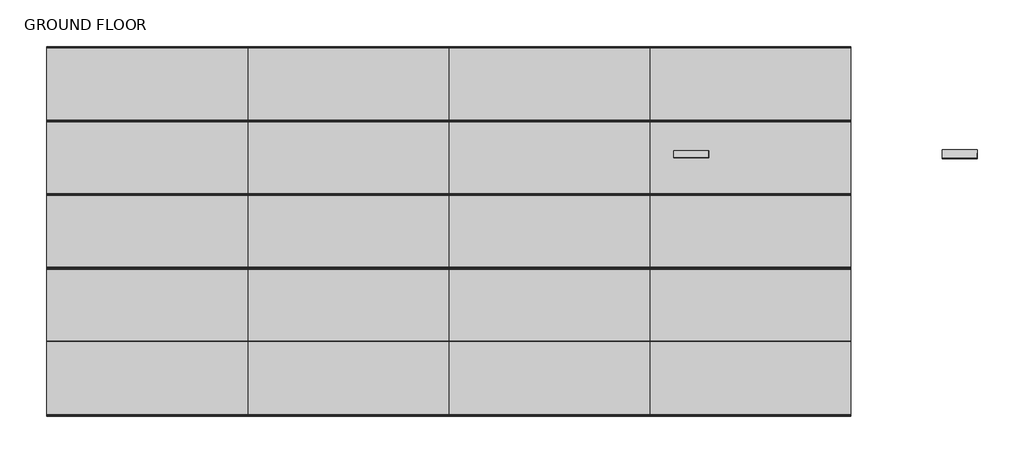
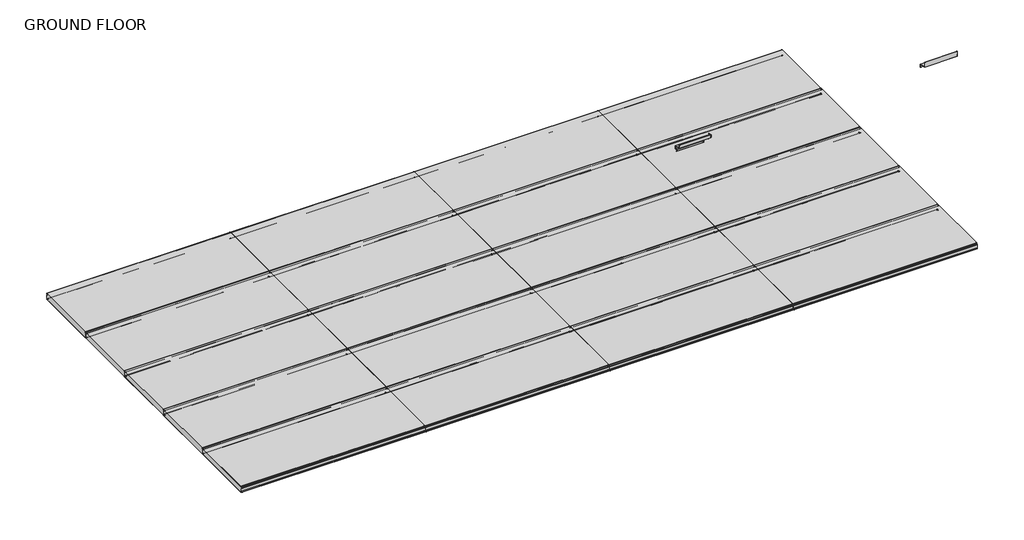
# One storey: 23 proxies.
"""IFC4 building model written with IfcOpenShell, lengths in millimetres."""

from ifc_helpers import new_model, si_unit, origin, place, context, project, spatial, transform, mapped, element, save
from components import cr1100_3d_100mm_cr1100_3d_100mm_3775a894, compressible_foam_seal1_compressible_foam_seal_3d3ce578, roof_b_apron_flashing_13_roof_b_apron_flashing_3fdaa6fa, roof_b_apron_flashing_14_roof_b_apron_flashing_8da3c9e0

model = new_model("IFC4")

# Units and contexts
model_context = context("Model", 3, world=origin())
ifc_project = project(units=[si_unit("LENGTHUNIT", "METRE", prefix="MILLI")], contexts=[model_context])

# Site, building, storey
site = spatial("IfcSite", under=ifc_project)
building = spatial("IfcBuilding", under=site)
storey = spatial("IfcBuildingStorey", under=building, Name="GROUND FLOOR", Elevation=0.0)

# Proxies
placement = place(None, origin())
cr1100_3d_100mm_cr1100_3d_100mm_shape = cr1100_3d_100mm_cr1100_3d_100mm_3775a894(model_context)
element("IfcBuildingElementProxy", 1, Name="CR1100-3D-100mm : CR1100-3D-100mm", ObjectType="CR1100-3D-100mm : CR1100-3D-100mm", at=placement, inside=storey, context=model_context, shape_type="MappedRepresentation", body=[
    mapped(cr1100_3d_100mm_cr1100_3d_100mm_shape, transform((4606.190419, 1117.4445991, 0.0), x_axis=(0.0, -1.0, 0.0), y_axis=(1.0, 0.0, 0.0), z_axis=(0.0, 0.0, 1.0))),
])
element("IfcBuildingElementProxy", 2, Name="CR1100-3D-100mm : CR1100-3D-100mm", ObjectType="CR1100-3D-100mm : CR1100-3D-100mm", at=placement, inside=storey, context=model_context, shape_type="MappedRepresentation", body=[
    mapped(cr1100_3d_100mm_cr1100_3d_100mm_shape, transform((4606.190419, 17.4418557, 0.0), x_axis=(0.0, -1.0, 0.0), y_axis=(1.0, 0.0, 0.0), z_axis=(0.0, 0.0, 1.0))),
])
element("IfcBuildingElementProxy", 3, Name="CR1100-3D-100mm : CR1100-3D-100mm", ObjectType="CR1100-3D-100mm : CR1100-3D-100mm", at=placement, inside=storey, context=model_context, shape_type="MappedRepresentation", body=[
    mapped(cr1100_3d_100mm_cr1100_3d_100mm_shape, transform((4606.190419, -1082.5608878, 0.0), x_axis=(0.0, -1.0, 0.0), y_axis=(1.0, 0.0, 0.0), z_axis=(0.0, 0.0, 1.0))),
])
element("IfcBuildingElementProxy", 4, Name="CR1100-3D-100mm : CR1100-3D-100mm", ObjectType="CR1100-3D-100mm : CR1100-3D-100mm", at=placement, inside=storey, context=model_context, shape_type="MappedRepresentation", body=[
    mapped(cr1100_3d_100mm_cr1100_3d_100mm_shape, transform((1606.190419, 1117.4445991, 0.0), x_axis=(0.0, -1.0, 0.0), y_axis=(1.0, 0.0, 0.0), z_axis=(0.0, 0.0, 1.0))),
])
element("IfcBuildingElementProxy", 5, Name="CR1100-3D-100mm : CR1100-3D-100mm", ObjectType="CR1100-3D-100mm : CR1100-3D-100mm", at=placement, inside=storey, context=model_context, shape_type="MappedRepresentation", body=[
    mapped(cr1100_3d_100mm_cr1100_3d_100mm_shape, transform((1606.190419, 17.4418557, 0.0), x_axis=(0.0, -1.0, 0.0), y_axis=(1.0, 0.0, 0.0), z_axis=(0.0, 0.0, 1.0))),
])
element("IfcBuildingElementProxy", 6, Name="CR1100-3D-100mm : CR1100-3D-100mm", ObjectType="CR1100-3D-100mm : CR1100-3D-100mm", at=placement, inside=storey, context=model_context, shape_type="MappedRepresentation", body=[
    mapped(cr1100_3d_100mm_cr1100_3d_100mm_shape, transform((1606.190419, -1082.5608878, 0.0), x_axis=(0.0, -1.0, 0.0), y_axis=(1.0, 0.0, 0.0), z_axis=(0.0, 0.0, 1.0))),
])
element("IfcBuildingElementProxy", 7, Name="CR1100-3D-100mm : CR1100-3D-100mm", ObjectType="CR1100-3D-100mm : CR1100-3D-100mm", at=placement, inside=storey, context=model_context, shape_type="MappedRepresentation", body=[
    mapped(cr1100_3d_100mm_cr1100_3d_100mm_shape, transform((7606.190419, 1117.4445991, 0.0), x_axis=(0.0, -1.0, 0.0), y_axis=(1.0, 0.0, 0.0), z_axis=(0.0, 0.0, 1.0))),
])
element("IfcBuildingElementProxy", 8, Name="CR1100-3D-100mm : CR1100-3D-100mm", ObjectType="CR1100-3D-100mm : CR1100-3D-100mm", at=placement, inside=storey, context=model_context, shape_type="MappedRepresentation", body=[
    mapped(cr1100_3d_100mm_cr1100_3d_100mm_shape, transform((7606.190419, 17.4418557, 0.0), x_axis=(0.0, -1.0, 0.0), y_axis=(1.0, 0.0, 0.0), z_axis=(0.0, 0.0, 1.0))),
])
element("IfcBuildingElementProxy", 9, Name="CR1100-3D-100mm : CR1100-3D-100mm", ObjectType="CR1100-3D-100mm : CR1100-3D-100mm", at=placement, inside=storey, context=model_context, shape_type="MappedRepresentation", body=[
    mapped(cr1100_3d_100mm_cr1100_3d_100mm_shape, transform((7606.190419, -1082.5608878, 0.0), x_axis=(0.0, -1.0, 0.0), y_axis=(1.0, 0.0, 0.0), z_axis=(0.0, 0.0, 1.0))),
])
element("IfcBuildingElementProxy", 10, Name="CR1100-3D-100mm : CR1100-3D-100mm", ObjectType="CR1100-3D-100mm : CR1100-3D-100mm", at=placement, inside=storey, context=model_context, shape_type="MappedRepresentation", body=[
    mapped(cr1100_3d_100mm_cr1100_3d_100mm_shape, transform((4606.190419, 2217.4473426, 0.0), x_axis=(0.0, -1.0, 0.0), y_axis=(1.0, 0.0, 0.0), z_axis=(0.0, 0.0, 1.0))),
])
element("IfcBuildingElementProxy", 11, Name="CR1100-3D-100mm : CR1100-3D-100mm", ObjectType="CR1100-3D-100mm : CR1100-3D-100mm", at=placement, inside=storey, context=model_context, shape_type="MappedRepresentation", body=[
    mapped(cr1100_3d_100mm_cr1100_3d_100mm_shape, transform((4606.190419, -2180.5636316, 0.0), x_axis=(0.0, -1.0, 0.0), y_axis=(1.0, 0.0, 0.0), z_axis=(0.0, 0.0, 1.0))),
])
element("IfcBuildingElementProxy", 12, Name="CR1100-3D-100mm : CR1100-3D-100mm", ObjectType="CR1100-3D-100mm : CR1100-3D-100mm", at=placement, inside=storey, context=model_context, shape_type="MappedRepresentation", body=[
    mapped(cr1100_3d_100mm_cr1100_3d_100mm_shape, transform((7606.190419, 2217.4473426, 0.0), x_axis=(0.0, -1.0, 0.0), y_axis=(1.0, 0.0, 0.0), z_axis=(0.0, 0.0, 1.0))),
])
element("IfcBuildingElementProxy", 13, Name="CR1100-3D-100mm : CR1100-3D-100mm", ObjectType="CR1100-3D-100mm : CR1100-3D-100mm", at=placement, inside=storey, context=model_context, shape_type="MappedRepresentation", body=[
    mapped(cr1100_3d_100mm_cr1100_3d_100mm_shape, transform((7606.190419, -2180.5636316, 0.0), x_axis=(0.0, -1.0, 0.0), y_axis=(1.0, 0.0, 0.0), z_axis=(0.0, 0.0, 1.0))),
])
element("IfcBuildingElementProxy", 14, Name="CR1100-3D-100mm : CR1100-3D-100mm", ObjectType="CR1100-3D-100mm : CR1100-3D-100mm", at=placement, inside=storey, context=model_context, shape_type="MappedRepresentation", body=[
    mapped(cr1100_3d_100mm_cr1100_3d_100mm_shape, transform((1606.190419, 2217.4473426, 0.0), x_axis=(0.0, -1.0, 0.0), y_axis=(1.0, 0.0, 0.0), z_axis=(0.0, 0.0, 1.0))),
])
element("IfcBuildingElementProxy", 15, Name="CR1100-3D-100mm : CR1100-3D-100mm", ObjectType="CR1100-3D-100mm : CR1100-3D-100mm", at=placement, inside=storey, context=model_context, shape_type="MappedRepresentation", body=[
    mapped(cr1100_3d_100mm_cr1100_3d_100mm_shape, transform((1606.190419, -2180.5636316, 0.0), x_axis=(0.0, -1.0, 0.0), y_axis=(1.0, 0.0, 0.0), z_axis=(0.0, 0.0, 1.0))),
])
element("IfcBuildingElementProxy", 16, Name="CR1100-3D-100mm : CR1100-3D-100mm", ObjectType="CR1100-3D-100mm : CR1100-3D-100mm", at=placement, inside=storey, context=model_context, shape_type="MappedRepresentation", body=[
    mapped(cr1100_3d_100mm_cr1100_3d_100mm_shape, transform((10606.190419, 1117.4445991, 0.0), x_axis=(0.0, -1.0, 0.0), y_axis=(1.0, 0.0, 0.0), z_axis=(0.0, 0.0, 1.0))),
])
element("IfcBuildingElementProxy", 17, Name="CR1100-3D-100mm : CR1100-3D-100mm", ObjectType="CR1100-3D-100mm : CR1100-3D-100mm", at=placement, inside=storey, context=model_context, shape_type="MappedRepresentation", body=[
    mapped(cr1100_3d_100mm_cr1100_3d_100mm_shape, transform((10606.190419, 17.4418557, 0.0), x_axis=(0.0, -1.0, 0.0), y_axis=(1.0, 0.0, 0.0), z_axis=(0.0, 0.0, 1.0))),
])
element("IfcBuildingElementProxy", 18, Name="CR1100-3D-100mm : CR1100-3D-100mm", ObjectType="CR1100-3D-100mm : CR1100-3D-100mm", at=placement, inside=storey, context=model_context, shape_type="MappedRepresentation", body=[
    mapped(cr1100_3d_100mm_cr1100_3d_100mm_shape, transform((10606.190419, -1082.5608878, 0.0), x_axis=(0.0, -1.0, 0.0), y_axis=(1.0, 0.0, 0.0), z_axis=(0.0, 0.0, 1.0))),
])
element("IfcBuildingElementProxy", 19, Name="CR1100-3D-100mm : CR1100-3D-100mm", ObjectType="CR1100-3D-100mm : CR1100-3D-100mm", at=placement, inside=storey, context=model_context, shape_type="MappedRepresentation", body=[
    mapped(cr1100_3d_100mm_cr1100_3d_100mm_shape, transform((10606.190419, 2217.4473426, 0.0), x_axis=(0.0, -1.0, 0.0), y_axis=(1.0, 0.0, 0.0), z_axis=(0.0, 0.0, 1.0))),
])
element("IfcBuildingElementProxy", 20, Name="CR1100-3D-100mm : CR1100-3D-100mm", ObjectType="CR1100-3D-100mm : CR1100-3D-100mm", at=placement, inside=storey, context=model_context, shape_type="MappedRepresentation", body=[
    mapped(cr1100_3d_100mm_cr1100_3d_100mm_shape, transform((10606.190419, -2180.5636316, 0.0), x_axis=(0.0, -1.0, 0.0), y_axis=(1.0, 0.0, 0.0), z_axis=(0.0, 0.0, 1.0))),
])
compressible_foam_seal1_compressible_foam_seal_shape = compressible_foam_seal1_compressible_foam_seal_3d3ce578(model_context)
element("IfcBuildingElementProxy", 21, Name="Compressible foam seal1 : Compressible foam seal", ObjectType="Compressible foam seal1 : Compressible foam seal", at=placement, inside=storey, context=model_context, shape_type="MappedRepresentation", body=[
    mapped(compressible_foam_seal1_compressible_foam_seal_shape, transform((0.0, 0.0, 0.0), x_axis=(1.0, 0.0, 0.0), y_axis=(0.0, 1.0, 0.0), z_axis=(0.0, 0.0, 1.0))),
])
roof_b_apron_flashing_13_roof_b_apron_flashing_shape = roof_b_apron_flashing_13_roof_b_apron_flashing_3fdaa6fa(model_context)
element("IfcBuildingElementProxy", 22, Name="Roof B - Apron Flashing 13 : Roof B Apron Flashing", ObjectType="Roof B - Apron Flashing 13 : Roof B Apron Flashing", at=placement, inside=storey, context=model_context, shape_type="MappedRepresentation", body=[
    mapped(roof_b_apron_flashing_13_roof_b_apron_flashing_shape, transform((0.0, 0.0, 650.0), x_axis=(1.0, 0.0, 0.0), y_axis=(0.0, 1.0, 0.0), z_axis=(0.0, 0.0, 1.0))),
])
roof_b_apron_flashing_14_roof_b_apron_flashing_shape = roof_b_apron_flashing_14_roof_b_apron_flashing_8da3c9e0(model_context)
element("IfcBuildingElementProxy", 23, Name="Roof B - Apron Flashing 14 : Roof B Apron Flashing", ObjectType="Roof B - Apron Flashing 14 : Roof B Apron Flashing", at=placement, inside=storey, context=model_context, shape_type="MappedRepresentation", body=[
    mapped(roof_b_apron_flashing_14_roof_b_apron_flashing_shape, transform((0.0, 0.0, 550.0), x_axis=(1.0, 0.0, 0.0), y_axis=(0.0, 1.0, 0.0), z_axis=(0.0, 0.0, 1.0))),
])

save(model, "model.ifc")
